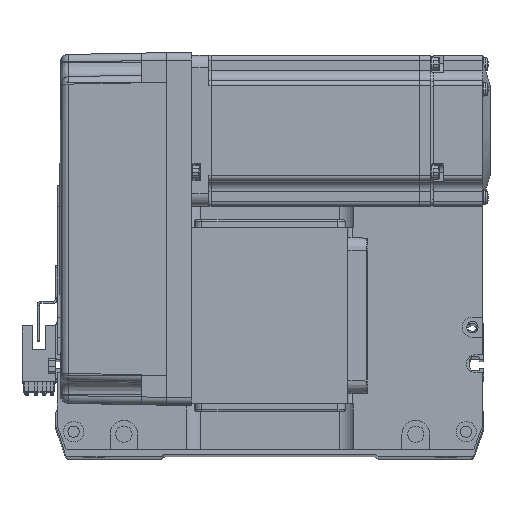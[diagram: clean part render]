
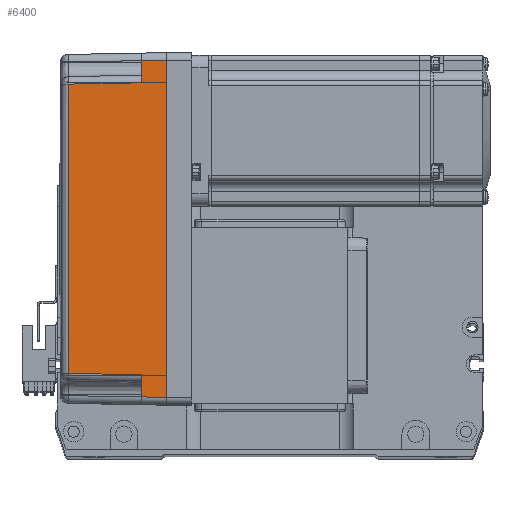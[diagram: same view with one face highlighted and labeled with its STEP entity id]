
A CAD part, top view. The second image highlights one B-rep face of the part: STEP entity #6400.
In plain terms, the highlighted planar face has unit normal (-0.018, 0, 1) as drawn and (0, 1, 0.017) by its records, which use the part's own axes.
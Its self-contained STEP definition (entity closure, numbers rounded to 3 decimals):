
#911 = FACE_OUTER_BOUND ( 'NONE', #18343, .T. ) ;
#1470 = ORIENTED_EDGE ( 'NONE', *, *, #18690, .T. ) ;
#2449 = ORIENTED_EDGE ( 'NONE', *, *, #53501, .T. ) ;
#2489 = CARTESIAN_POINT ( 'NONE',  ( -66.826, 35.825, 10. ) ) ;
#2525 = CARTESIAN_POINT ( 'NONE',  ( -67., 36., 0. ) ) ;
#2698 = VERTEX_POINT ( 'NONE', #2489 ) ;
#2778 = ORIENTED_EDGE ( 'NONE', *, *, #25440, .T. ) ;
#4304 = VERTEX_POINT ( 'NONE', #58884 ) ;
#4488 = VECTOR ( 'NONE', #39322, 1000. ) ;
#5056 = DIRECTION ( 'NONE',  ( 1., 0., 0. ) ) ;
#5426 = LINE ( 'NONE', #21969, #44707 ) ;
#6400 = ADVANCED_FACE ( 'NONE', ( #911 ), #20001, .T. ) ;
#7008 = CARTESIAN_POINT ( 'NONE',  ( 67., 36., 0. ) ) ;
#7189 = DIRECTION ( 'NONE',  ( 0., 1., 0.017 ) ) ;
#7630 = CARTESIAN_POINT ( 'NONE',  ( 70., 35.825, 10. ) ) ;
#7940 = ORIENTED_EDGE ( 'NONE', *, *, #50392, .T. ) ;
#9364 = VERTEX_POINT ( 'NONE', #26213 ) ;
#11478 = DIRECTION ( 'NONE',  ( 0., -0.017, 1. ) ) ;
#11647 = EDGE_CURVE ( 'NONE', #51380, #9364, #55575, .T. ) ;
#11787 = DIRECTION ( 'NONE',  ( 0.017, 0.017, -1. ) ) ;
#11821 = LINE ( 'NONE', #49654, #57064 ) ;
#12028 = VECTOR ( 'NONE', #52966, 1000. ) ;
#13485 = VECTOR ( 'NONE', #5056, 1000. ) ;
#13509 = LINE ( 'NONE', #43484, #12028 ) ;
#15613 = VECTOR ( 'NONE', #36208, 1000. ) ;
#16347 = EDGE_CURVE ( 'NONE', #38956, #34389, #5426, .T. ) ;
#17822 = VERTEX_POINT ( 'NONE', #59167 ) ;
#18343 = EDGE_LOOP ( 'NONE', ( #2449, #7940, #40462, #1470, #43770, #2778, #27066, #44879 ) ) ;
#18690 = EDGE_CURVE ( 'NONE', #9364, #17822, #20514, .T. ) ;
#20001 = PLANE ( 'NONE',  #43719 ) ;
#20514 = B_SPLINE_CURVE_WITH_KNOTS ( 'NONE', 3,
 ( #32392, #22018, #55104, #55323 ),
 .UNSPECIFIED., .F., .F.,
 ( 4, 4 ),
 ( 0., 1. ),
 .UNSPECIFIED. ) ;
#21969 = CARTESIAN_POINT ( 'NONE',  ( 67.001, 36.001, -0.052 ) ) ;
#22018 = CARTESIAN_POINT ( 'NONE',  ( -19.165, 35.316, 39.181 ) ) ;
#25440 = EDGE_CURVE ( 'NONE', #4304, #34389, #47930, .T. ) ;
#25754 = DIRECTION ( 'NONE',  ( -0.017, -0.017, 1. ) ) ;
#26213 = CARTESIAN_POINT ( 'NONE',  ( -57.495, 35.32, 38.985 ) ) ;
#26274 = EDGE_CURVE ( 'NONE', #17822, #4304, #11821, .T. ) ;
#27066 = ORIENTED_EDGE ( 'NONE', *, *, #16347, .F. ) ;
#28116 = VECTOR ( 'NONE', #48656, 1000. ) ;
#29458 = EDGE_CURVE ( 'NONE', #29540, #38956, #60983, .T. ) ;
#29540 = VERTEX_POINT ( 'NONE', #2525 ) ;
#30373 = CARTESIAN_POINT ( 'NONE',  ( 70., 36., 0. ) ) ;
#32392 = CARTESIAN_POINT ( 'NONE',  ( -57.495, 35.32, 38.985 ) ) ;
#34389 = VERTEX_POINT ( 'NONE', #59610 ) ;
#35497 = CARTESIAN_POINT ( 'NONE',  ( -58., 35.825, 10. ) ) ;
#36208 = DIRECTION ( 'NONE',  ( 1., 0., 0. ) ) ;
#38956 = VERTEX_POINT ( 'NONE', #7008 ) ;
#39322 = DIRECTION ( 'NONE',  ( 0.017, -0.017, 1. ) ) ;
#39424 = CARTESIAN_POINT ( 'NONE',  ( 0., 36., 0. ) ) ;
#39513 = CARTESIAN_POINT ( 'NONE',  ( -58., 35.825, 10. ) ) ;
#40462 = ORIENTED_EDGE ( 'NONE', *, *, #11647, .T. ) ;
#42865 = LINE ( 'NONE', #57812, #28116 ) ;
#43484 = CARTESIAN_POINT ( 'NONE',  ( 70., 35.825, 10. ) ) ;
#43719 = AXIS2_PLACEMENT_3D ( 'NONE', #30373, #7189, #11478 ) ;
#43770 = ORIENTED_EDGE ( 'NONE', *, *, #26274, .T. ) ;
#44707 = VECTOR ( 'NONE', #25754, 1000. ) ;
#44879 = ORIENTED_EDGE ( 'NONE', *, *, #29458, .F. ) ;
#47930 = LINE ( 'NONE', #7630, #15613 ) ;
#48656 = DIRECTION ( 'NONE',  ( 0.017, -0.017, 1. ) ) ;
#49654 = CARTESIAN_POINT ( 'NONE',  ( 57.495, 35.32, 38.985 ) ) ;
#50392 = EDGE_CURVE ( 'NONE', #2698, #51380, #13509, .T. ) ;
#51380 = VERTEX_POINT ( 'NONE', #35497 ) ;
#52966 = DIRECTION ( 'NONE',  ( 1., 0., 0. ) ) ;
#53501 = EDGE_CURVE ( 'NONE', #29540, #2698, #42865, .T. ) ;
#55104 = CARTESIAN_POINT ( 'NONE',  ( 19.165, 35.316, 39.181 ) ) ;
#55323 = CARTESIAN_POINT ( 'NONE',  ( 57.495, 35.32, 38.985 ) ) ;
#55575 = LINE ( 'NONE', #39513, #4488 ) ;
#57064 = VECTOR ( 'NONE', #11787, 1000. ) ;
#57812 = CARTESIAN_POINT ( 'NONE',  ( -67., 36., 0. ) ) ;
#58884 = CARTESIAN_POINT ( 'NONE',  ( 58., 35.825, 10. ) ) ;
#59167 = CARTESIAN_POINT ( 'NONE',  ( 57.495, 35.32, 38.985 ) ) ;
#59610 = CARTESIAN_POINT ( 'NONE',  ( 66.826, 35.825, 10. ) ) ;
#60983 = LINE ( 'NONE', #39424, #13485 ) ;
